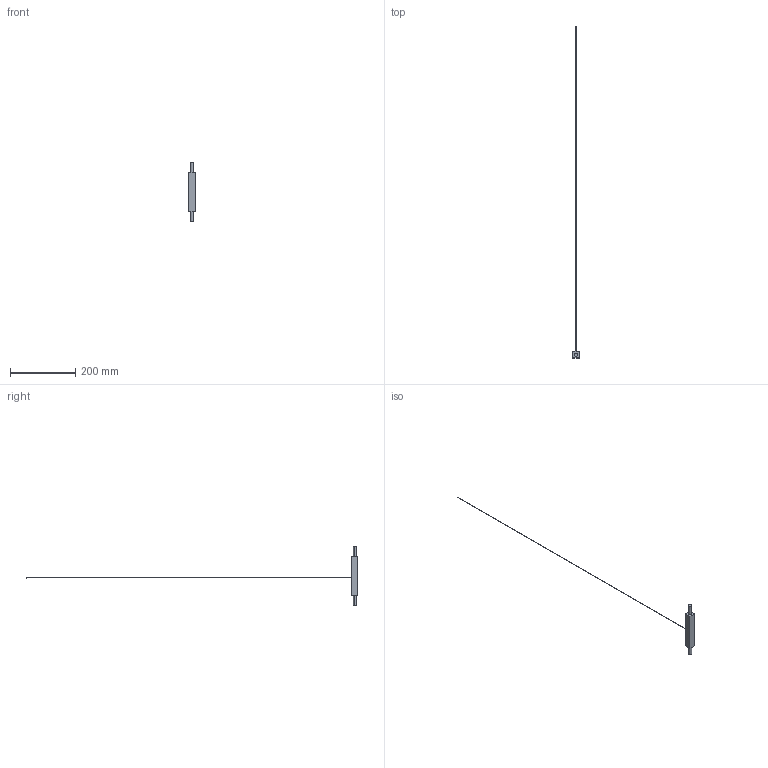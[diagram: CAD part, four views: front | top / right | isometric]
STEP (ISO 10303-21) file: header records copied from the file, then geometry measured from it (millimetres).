
FILE_DESCRIPTION (( 'STEP AP214' ), '1' );
FILE_NAME ('3D_LINESCAPES_CENTRAL.STEP', '2018-03-02T15:36:19', ( 'Utente' ), ( '' ), 'SwSTEP 2.0', 'SolidWorks 2016', '' );
FILE_SCHEMA (( 'AUTOMOTIVE_DESIGN' ));
Length unit declared in the file: millimetre
Products named in the file (4): ESTRUSOENDCEN; 3D_LINESCAPES_CENTRAL; CAVO1.2ENDCEN; TECENDCEN
Assembly tree (4 placements, depth 2):
  3D_LINESCAPES_CENTRAL
    ESTRUSOENDCEN
    CAVO1.2ENDCEN
    TECENDCEN  x2
Bounding box: 20 x 1015 x 182 mm (x, y, z)
Volume: 53994.8 mm3; surface area: 16415.3 mm2
Topology: 4 solids, 4 shells, 18 faces, 30 edges, 20 vertices
Faces by surface type: plane 12, cylinder 6
Entity records: 498 total; most frequent: DIRECTION 74, CARTESIAN_POINT 61, ORIENTED_EDGE 48, AXIS2_PLACEMENT_3D 29, EDGE_CURVE 24, LINE 16, VERTEX_POINT 16, VECTOR 16
